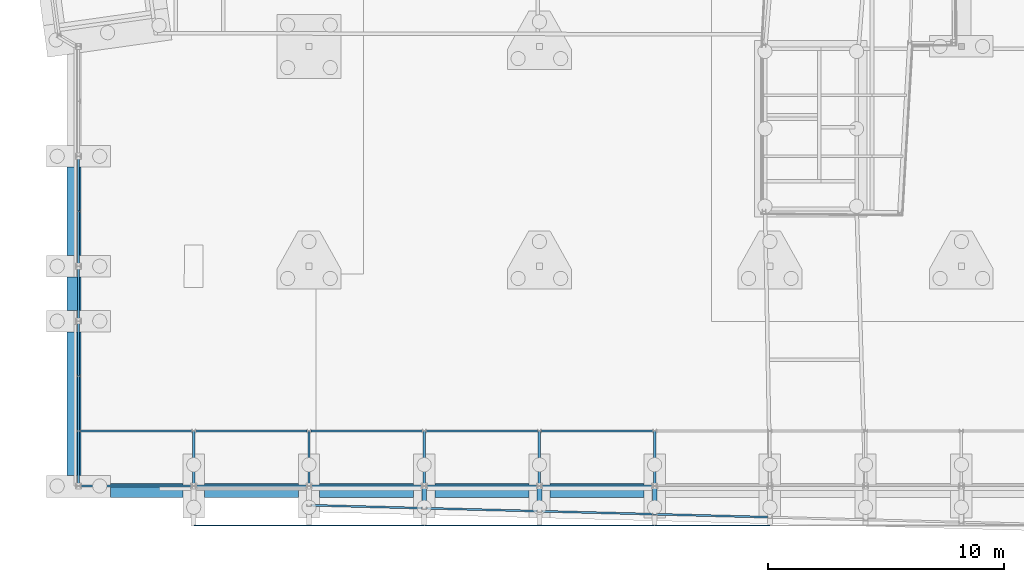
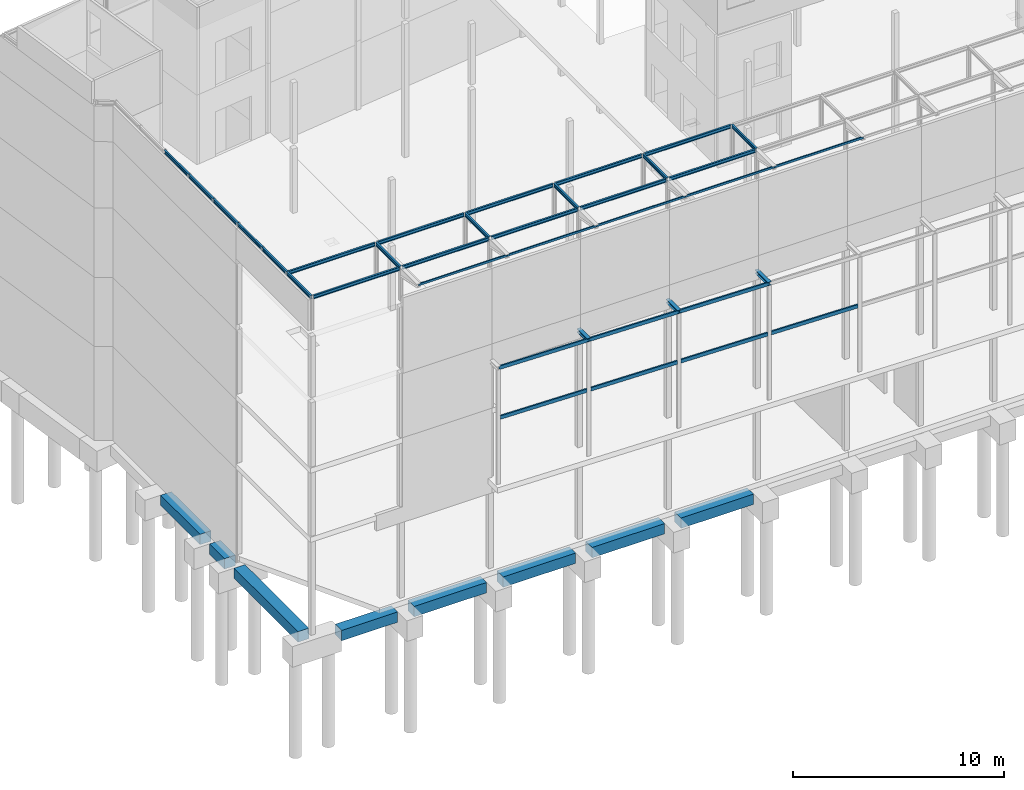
# One storey, part 60 of 82: 44 beams.
"""IFC2X3 building model written with IfcOpenShell, lengths in millimetres."""

from ifc_helpers import new_model, si_unit, frame, frame_2d, origin_with_axes, place, context, subcontext, project, spatial, rectangle, i_section, u_section, extrude, boolean, clip, halfspace, material, type_object, element, save


model = new_model("IFC2X3")

# Units and contexts
model_context = context("Model", 3, precision=1e-05, world=origin_with_axes())
body_context = subcontext(model_context, "Body", "Model", "MODEL_VIEW")
ifc_project = project(units=[si_unit("LENGTHUNIT", "METRE", prefix="MILLI"), si_unit("AREAUNIT", "SQUARE_METRE"), si_unit("VOLUMEUNIT", "CUBIC_METRE"), si_unit("MASSUNIT", "GRAM", prefix="KILO"), si_unit("TIMEUNIT", "SECOND"), si_unit("PLANEANGLEUNIT", "RADIAN"), si_unit("SOLIDANGLEUNIT", "STERADIAN"), si_unit("THERMODYNAMICTEMPERATUREUNIT", "DEGREE_CELSIUS"), si_unit("LUMINOUSINTENSITYUNIT", "LUMEN")], contexts=[model_context])

# Site, building, storey
site_placement = place(None, origin_with_axes())
site = spatial("IfcSite", under=ifc_project, at=site_placement, Name="Undefined", CompositionType="ELEMENT")
building_placement = place(site_placement, origin_with_axes())
building = spatial("IfcBuilding", under=site, at=building_placement, Name="Undefined", CompositionType="ELEMENT")
storey_placement = place(building_placement, origin_with_axes())
storey = spatial("IfcBuildingStorey", under=building, at=storey_placement, Name="Undefined", CompositionType="ELEMENT", Elevation=0.0)

# Beams
ifc_material_1 = material(Name="STEEL/S275JR")
beam_type_1 = type_object("IfcBeamType", Name="IPE200", PredefinedType="NOTDEFINED")
beam_1_placement = place(storey_placement, frame((3.12153133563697e-07, 11625.0001374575, 19025.0), z_axis=(0.0, 0.0, 1.0), x_axis=(-2.77555756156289e-17, -1.0, 0.0)))
element("IfcBeam", 1, at=beam_1_placement, inside=storey, type_object=beam_type_1, material=ifc_material_1, Name="POUTRE", ObjectType="IPE200", context=body_context, shape_type="SweptSolid", body=[
    extrude(i_section(OverallWidth=100.0, OverallDepth=200.0, WebThickness=5.599999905, FlangeThickness=8.5, FilletRadius=12.0, at=frame_2d((5.17284206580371e-08, 4.49290382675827e-10), x_axis=(1.0, 0.0))), frame((2321.00013732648, 0.0, 0.0), z_axis=(-1.0, 0.0, 0.0), x_axis=(-2.77555756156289e-17, -1.0, 0.0)), (0.0, 0.0, 1.0), 2317.0),
])
for number, where, z_axis, x_axis, name in (
    (2, (-5.80257619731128e-09, 4650.00042968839, 19025.0200000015), (0.0, -4.30099999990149e-06, 0.999999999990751), (0.0, -0.999999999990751, -4.30100000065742e-06), "POUTRE"),
    (3, (-1.95359461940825e-09, 2325.00042990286, 19025.0100000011), (0.0, -4.30099999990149e-06, 0.999999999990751), (0.0, -0.999999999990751, -4.30100000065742e-06), "POUTRE"),
):
    element("IfcBeam", number, at=place(storey_placement, frame(where, z_axis=z_axis, x_axis=x_axis)), inside=storey, type_object=beam_type_1, material=ifc_material_1, Name=name, ObjectType="IPE200", context=body_context, shape_type="SweptSolid", body=[
        extrude(i_section(OverallWidth=100.0, OverallDepth=200.0, WebThickness=5.599999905, FlangeThickness=8.5, FilletRadius=12.0, at=frame_2d((5.17284206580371e-08, 4.49290382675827e-10), x_axis=(1.0, 0.0))), frame((2321.0004298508, 0.0, 0.0), z_axis=(-1.0, 0.0, 0.0), x_axis=(-2.77555756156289e-17, -1.0, 0.0)), (0.0, 0.0, 1.0), 2317.0),
    ])
for number, where, z_axis, x_axis, name in (
    (4, (24374.9999979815, -0.00129034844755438, 19025.0300000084), (0.0, 1.29029999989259e-05, 0.999999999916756), (1.00000135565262e-09, 0.999999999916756, -1.29029999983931e-05), "POUTRE"),
    (5, (19499.9999979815, -0.0012903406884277, 19025.0300000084), (0.0, 1.29029999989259e-05, 0.999999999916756), (1.00000135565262e-09, 0.999999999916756, -1.29029999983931e-05), "POUTRE"),
    (6, (14624.9999979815, -0.00129033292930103, 19025.0300000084), (0.0, 1.29029999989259e-05, 0.999999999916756), (1.00000135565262e-09, 0.999999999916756, -1.29029999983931e-05), "POUTRE"),
    (7, (9749.9999979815, -0.00129032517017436, 19025.0300000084), (0.0, 1.29029999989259e-05, 0.999999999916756), (1.00000135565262e-09, 0.999999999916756, -1.29029999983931e-05), "POUTRE"),
    (8, (4874.9999979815, -0.00129031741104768, 19025.0300000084), (0.0, 1.29029999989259e-05, 0.999999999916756), (1.00000135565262e-09, 0.999999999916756, -1.29029999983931e-05), "POUTRE"),
):
    element("IfcBeam", number, at=place(storey_placement, frame(where, z_axis=z_axis, x_axis=x_axis)), inside=storey, type_object=beam_type_1, material=ifc_material_1, Name=name, ObjectType="IPE200", context=body_context, shape_type="SweptSolid", body=[
        extrude(i_section(OverallWidth=100.0, OverallDepth=200.0, WebThickness=5.599999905, FlangeThickness=8.5, FilletRadius=12.0, at=frame_2d((5.17284206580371e-08, 4.49290382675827e-10), x_axis=(1.0, 0.0))), frame((2321.00129012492, -9.56248207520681e-23, 3.93192912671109e-18), z_axis=(-1.0, 0.0, 0.0), x_axis=(-2.77555756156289e-17, -1.0, 0.0)), (0.0, 0.0, 1.0), 2317.0),
    ])
for number, where, z_axis, x_axis, name in (
    (9, (19500.0000004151, 2324.99999967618, 19025.0000000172), (0.0, 0.0, 1.0), (1.0, 0.0, 0.0), "POUTRE"),
    (10, (14625.0000004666, 2324.99999968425, 19025.0000000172), (0.0, 0.0, 1.0), (1.0, 0.0, 0.0), "POUTRE"),
    (11, (9750.0000011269, 2324.99999969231, 19025.0000000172), (0.0, 0.0, 1.0), (1.0, 0.0, 0.0), "POUTRE"),
    (12, (4875.00000112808, 2324.99999970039, 19025.0000000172), (0.0, 0.0, 1.0), (1.0, 0.0, 0.0), "POUTRE"),
    (13, (6.21348590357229e-07, 2324.99999984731, 19025.0), (0.0, 0.0, 1.0), (1.0, 0.0, 0.0), "POUTRE"),
):
    element("IfcBeam", number, at=place(storey_placement, frame(where, z_axis=z_axis, x_axis=x_axis)), inside=storey, type_object=beam_type_1, material=ifc_material_1, Name=name, ObjectType="IPE200", context=body_context, shape_type="SweptSolid", body=[
        extrude(i_section(OverallWidth=100.0, OverallDepth=200.0, WebThickness=5.599999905, FlangeThickness=8.5, FilletRadius=12.0, at=frame_2d((5.17284206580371e-08, 4.49290382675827e-10), x_axis=(1.0, 0.0))), frame((4795.00000103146, 0.0, 0.0), z_axis=(-1.0, 0.0, 0.0), x_axis=(-2.77555756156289e-17, -1.0, 0.0)), (0.0, 0.0, 1.0), 4715.0),
    ])
beam_2_placement = place(storey_placement, frame((19500.0006153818, 6.7387020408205e-09, 19025.0000000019), z_axis=(-6.11252893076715e-06, 2.76481135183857e-10, 0.999999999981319), x_axis=(0.99999999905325, 4.30770000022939e-05, 6.15400000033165e-06)))
element("IfcBeam", 14, at=beam_2_placement, inside=storey, type_object=beam_type_1, material=ifc_material_1, Name="POUTRE", ObjectType="IPE200", context=body_context, shape_type="SweptSolid", body=[
    extrude(i_section(OverallWidth=100.0, OverallDepth=200.0, WebThickness=5.599999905, FlangeThickness=8.5, FilletRadius=12.0, at=frame_2d((5.17284206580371e-08, 4.49290382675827e-10), x_axis=(1.0, 0.0))), frame((4794.9993847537, 0.0, 0.0), z_axis=(-1.0, 0.0, 0.0), x_axis=(-2.77555756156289e-17, -1.0, 0.0)), (0.0, 0.0, 1.0), 4715.0),
])
beam_3_placement = place(storey_placement, frame((14624.9993846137, -1.17028946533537e-08, 19025.0300000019), z_axis=(6.15400000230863e-06, 0.0, 0.999999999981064), x_axis=(0.999999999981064, 0.0, -6.1540000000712e-06)))
element("IfcBeam", 15, at=beam_3_placement, inside=storey, type_object=beam_type_1, material=ifc_material_1, Name="POUTRE", ObjectType="IPE200", context=body_context, shape_type="SweptSolid", body=[
    extrude(i_section(OverallWidth=100.0, OverallDepth=200.0, WebThickness=5.599999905, FlangeThickness=8.5, FilletRadius=12.0, at=frame_2d((5.17284206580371e-08, 4.49290382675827e-10), x_axis=(1.0, 0.0))), frame((4795.00061555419, 0.0, 4.06152350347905e-18), z_axis=(-1.0, 0.0, 0.0), x_axis=(-2.77555756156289e-17, -1.0, 0.0)), (0.0, 0.0, 1.0), 4715.0),
])
beam_4_placement = place(storey_placement, frame((9750.00061538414, -3.63817775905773e-09, 19025.0000000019), z_axis=(-6.11252893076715e-06, 2.76481135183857e-10, 0.999999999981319), x_axis=(0.999999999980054, 0.0, 6.31599999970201e-06)))
element("IfcBeam", 16, at=beam_4_placement, inside=storey, type_object=beam_type_1, material=ifc_material_1, Name="POUTRE", ObjectType="IPE200", context=body_context, shape_type="SweptSolid", body=[
    extrude(i_section(OverallWidth=100.0, OverallDepth=200.0, WebThickness=5.599999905, FlangeThickness=8.5, FilletRadius=12.0, at=frame_2d((5.17284206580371e-08, 4.49290382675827e-10), x_axis=(1.0, 0.0))), frame((4794.9993847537, 0.0, 0.0), z_axis=(-1.0, 0.0, 0.0), x_axis=(-2.77555756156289e-17, -1.0, 0.0)), (0.0, 0.0, 1.0), 4715.0),
])
beam_5_placement = place(storey_placement, frame((4874.99938461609, 4.43017711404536e-09, 19025.0300000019), z_axis=(6.15400000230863e-06, 0.0, 0.999999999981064), x_axis=(0.999999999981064, 0.0, -6.1540000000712e-06)))
element("IfcBeam", 17, at=beam_5_placement, inside=storey, type_object=beam_type_1, material=ifc_material_1, Name="POUTRE", ObjectType="IPE200", context=body_context, shape_type="SweptSolid", body=[
    extrude(i_section(OverallWidth=100.0, OverallDepth=200.0, WebThickness=5.599999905, FlangeThickness=8.5, FilletRadius=12.0, at=frame_2d((5.17284206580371e-08, 4.49290382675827e-10), x_axis=(1.0, 0.0))), frame((4795.00061555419, 0.0, 4.06152350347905e-18), z_axis=(-1.0, 0.0, 0.0), x_axis=(-2.77555756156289e-17, -1.0, 0.0)), (0.0, 0.0, 1.0), 4715.0),
])
beam_6_placement = place(storey_placement, frame((0.000615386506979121, 1.25021699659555e-08, 19025.0000000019), z_axis=(-6.11252893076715e-06, 2.76481135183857e-10, 0.999999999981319), x_axis=(0.999999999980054, 0.0, 6.31599999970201e-06)))
element("IfcBeam", 18, at=beam_6_placement, inside=storey, type_object=beam_type_1, material=ifc_material_1, Name="POUTRE", ObjectType="IPE200", context=body_context, shape_type="SweptSolid", body=[
    extrude(i_section(OverallWidth=100.0, OverallDepth=200.0, WebThickness=5.599999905, FlangeThickness=8.5, FilletRadius=12.0, at=frame_2d((5.17284206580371e-08, 4.49290382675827e-10), x_axis=(1.0, 0.0))), frame((4794.9993847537, 0.0, 0.0), z_axis=(-1.0, 0.0, 0.0), x_axis=(-2.77555756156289e-17, -1.0, 0.0)), (0.0, 0.0, 1.0), 4715.0),
])
beam_7_placement = place(storey_placement, frame((-9.64791979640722e-09, 6975.00043012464, 19025.0300000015), z_axis=(0.0, -4.30099999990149e-06, 0.999999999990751), x_axis=(0.0, -0.999999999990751, -4.30100000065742e-06)))
element("IfcBeam", 19, at=beam_7_placement, inside=storey, type_object=beam_type_1, material=ifc_material_1, Name="POUTRE", ObjectType="IPE200", context=body_context, shape_type="SweptSolid", body=[
    extrude(i_section(OverallWidth=100.0, OverallDepth=200.0, WebThickness=5.599999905, FlangeThickness=8.5, FilletRadius=12.0, at=frame_2d((5.17284206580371e-08, 4.49290382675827e-10), x_axis=(1.0, 0.0))), frame((2321.0004298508, 0.0, 0.0), z_axis=(-1.0, 0.0, 0.0), x_axis=(-2.77555756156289e-17, -1.0, 0.0)), (0.0, 0.0, 1.0), 2317.0),
])
beam_8_placement = place(storey_placement, frame((-1.35005393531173e-08, 9299.99870969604, 19025.0000000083), z_axis=(0.0, 1.29029999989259e-05, 0.999999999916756), x_axis=(0.0, -0.999999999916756, 1.2902999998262e-05)))
element("IfcBeam", 20, at=beam_8_placement, inside=storey, type_object=beam_type_1, material=ifc_material_1, Name="POUTRE", ObjectType="IPE200", context=body_context, shape_type="SweptSolid", body=[
    extrude(i_section(OverallWidth=100.0, OverallDepth=200.0, WebThickness=5.599999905, FlangeThickness=8.5, FilletRadius=12.0, at=frame_2d((5.17284206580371e-08, 4.49290382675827e-10), x_axis=(1.0, 0.0))), frame((2320.99870975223, 0.0, -3.93192475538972e-18), z_axis=(-1.0, 0.0, 0.0), x_axis=(-2.77555756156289e-17, -1.0, 0.0)), (0.0, 0.0, 1.0), 2317.0),
])
beam_9_placement = place(storey_placement, frame((6.37799530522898e-07, 13949.9999998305, 19025.0), z_axis=(0.0, 0.0, 1.0), x_axis=(-2.77555756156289e-17, -1.0, 0.0)))
element("IfcBeam", 21, at=beam_9_placement, inside=storey, type_object=beam_type_1, material=ifc_material_1, Name="POUTRE", ObjectType="IPE200", context=body_context, shape_type="SweptSolid", body=[
    extrude(i_section(OverallWidth=100.0, OverallDepth=200.0, WebThickness=5.599999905, FlangeThickness=8.5, FilletRadius=12.0, at=frame_2d((5.17284206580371e-08, 4.49290382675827e-10), x_axis=(1.0, 0.0))), frame((2320.99986233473, 0.0, 0.0), z_axis=(-1.0, 0.0, 0.0), x_axis=(-2.77555756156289e-17, -1.0, 0.0)), (0.0, 0.0, 1.0), 2317.0),
])
beam_type_2 = type_object("IfcBeamType", Name="UPE120", PredefinedType="NOTDEFINED")
beam_10_placement = place(storey_placement, frame((24382.4622321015, -1669.79005434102, 19065.0), z_axis=(0.0, -6.50000002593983e-08, -0.999999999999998), x_axis=(0.999999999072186, -4.30770000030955e-05, 0.0)))
element("IfcBeam", 22, at=beam_10_placement, inside=storey, type_object=beam_type_2, material=ifc_material_1, Name="POUTRE", ObjectType="UPE120", context=body_context, shape_type="CSG", body=[
    boolean("DIFFERENCE", boolean("DIFFERENCE", extrude(u_section(Depth=120.0, FlangeWidth=60.0, WebThickness=5.0, FlangeThickness=8.0, FilletRadius=12.0, at=frame_2d((5.17284206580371e-08, 4.49290382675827e-10), x_axis=(1.0, 0.0))), frame((4862.53728702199, 0.0, 0.0), z_axis=(-1.0, 0.0, 0.0), x_axis=(-2.77555756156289e-17, -1.0, 0.0)), (0.0, 0.0, 1.0), 4865.0), extrude(rectangle(XDim=22.0, YDim=112.0, at=frame_2d((5.17284206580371e-08, 4.49290382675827e-10), x_axis=(1.0, 0.0))), frame((4808.53594265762, -31.2072434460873, -50.0148687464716), z_axis=(4.30770000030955e-05, 0.999999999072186, 0.0), x_axis=(0.0, 0.0, 1.0)), (0.0, 0.0, 1.0), 62.2)), extrude(rectangle(XDim=22.0, YDim=112.0, at=frame_2d((5.17284206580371e-08, 4.49290382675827e-10), x_axis=(1.0, 0.0))), frame((51.5386268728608, 31.2072434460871, -50.0148687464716), z_axis=(-4.30770000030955e-05, -0.999999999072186, 0.0), x_axis=(0.0, 0.0, 1.0)), (0.0, 0.0, 1.0), 62.2)),
])
for number, where, z_axis, x_axis, name in (
    (23, (19499.9982210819, -1670.00000019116, 19065.0), (0.0, -6.50000002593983e-08, -0.999999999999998), (0.9999999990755, 4.30000000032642e-05, 0.0), "POUTRE"),
    (24, (14624.9982251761, -1670.00000019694, 19065.0), (0.0, -6.50000002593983e-08, -0.999999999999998), (0.9999999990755, 4.30000000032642e-05, 0.0), "POUTRE"),
):
    element("IfcBeam", number, at=place(storey_placement, frame(where, z_axis=z_axis, x_axis=x_axis)), inside=storey, type_object=beam_type_2, material=ifc_material_1, Name=name, ObjectType="UPE120", context=body_context, shape_type="CSG", body=[
        boolean("DIFFERENCE", boolean("DIFFERENCE", extrude(u_section(Depth=120.0, FlangeWidth=60.0, WebThickness=5.0, FlangeThickness=8.0, FilletRadius=12.0, at=frame_2d((5.17284206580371e-08, 4.49290382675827e-10), x_axis=(1.0, 0.0))), frame((4870.00129803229, 0.0, -3.63797880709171e-12), z_axis=(-1.0, 0.0, 0.0), x_axis=(-2.77555756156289e-17, -1.0, 0.0)), (0.0, 0.0, 1.0), 4865.0), extrude(rectangle(XDim=22.0, YDim=112.0, at=frame_2d((5.17284206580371e-08, 4.49290382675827e-10), x_axis=(1.0, 0.0))), frame((4816.00263108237, -31.0023219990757, -50.0148687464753), z_axis=(-4.30000000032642e-05, 0.9999999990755, 0.0), x_axis=(0.0, 0.0, 1.0)), (0.0, 0.0, 1.0), 62.2)), extrude(rectangle(XDim=22.0, YDim=112.0, at=frame_2d((5.17284206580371e-08, 4.49290382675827e-10), x_axis=(1.0, 0.0))), frame((58.99996048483, 31.0023219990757, -50.0148687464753), z_axis=(4.30000000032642e-05, -0.9999999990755, 0.0), x_axis=(0.0, 0.0, 1.0)), (0.0, 0.0, 1.0), 62.2)),
    ])
beam_11_placement = place(storey_placement, frame((9750.00000061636, -1670.000000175, 19065.0), z_axis=(0.0, -6.50000002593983e-08, -0.999999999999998), x_axis=(1.0, 0.0, 0.0)))
element("IfcBeam", 25, at=beam_11_placement, inside=storey, type_object=beam_type_2, material=ifc_material_1, Name="POUTRE", ObjectType="UPE120", context=body_context, shape_type="CSG", body=[
    boolean("DIFFERENCE", boolean("DIFFERENCE", extrude(u_section(Depth=120.0, FlangeWidth=60.0, WebThickness=5.0, FlangeThickness=8.0, FilletRadius=12.0, at=frame_2d((5.17284206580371e-08, 4.49290382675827e-10), x_axis=(1.0, 0.0))), frame((4869.99951399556, 0.0, 0.0), z_axis=(-1.0, 0.0, 0.0), x_axis=(-2.77555756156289e-17, -1.0, 0.0)), (0.0, 0.0, 1.0), 4865.0), extrude(rectangle(XDim=22.0, YDim=112.0, at=frame_2d((5.17284206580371e-08, 4.49290382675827e-10), x_axis=(1.0, 0.0))), frame((4815.99951399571, -31.0, -50.0148687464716), z_axis=(0.0, 1.0, 0.0), x_axis=(0.0, 0.0, 1.0)), (0.0, 0.0, 1.0), 62.0)), extrude(rectangle(XDim=22.0, YDim=112.0, at=frame_2d((5.17284206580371e-08, 4.49290382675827e-10), x_axis=(1.0, 0.0))), frame((58.9995139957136, 31.0, -50.0148687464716), z_axis=(-2.77555756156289e-17, -1.0, 0.0), x_axis=(0.0, 0.0, 1.0)), (0.0, 0.0, 1.0), 62.0)),
])
beam_12_placement = place(storey_placement, frame((4874.99951528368, -1670.00000018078, 19065.0), z_axis=(0.0, -6.50000002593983e-08, -0.999999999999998), x_axis=(1.0, 0.0, 0.0)))
element("IfcBeam", 26, at=beam_12_placement, inside=storey, type_object=beam_type_2, material=ifc_material_1, Name="POUTRE", ObjectType="UPE120", context=body_context, shape_type="CSG", body=[
    boolean("DIFFERENCE", boolean("DIFFERENCE", extrude(u_section(Depth=120.0, FlangeWidth=60.0, WebThickness=5.0, FlangeThickness=8.0, FilletRadius=12.0, at=frame_2d((5.17284206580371e-08, 4.49290382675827e-10), x_axis=(1.0, 0.0))), frame((4869.99999932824, 0.0, 0.0), z_axis=(-1.0, 0.0, 0.0), x_axis=(-2.77555756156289e-17, -1.0, 0.0)), (0.0, 0.0, 1.0), 4865.0), extrude(rectangle(XDim=22.0, YDim=112.0, at=frame_2d((5.17284206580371e-08, 4.49290382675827e-10), x_axis=(1.0, 0.0))), frame((4815.99999932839, -31.0, -50.014868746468), z_axis=(0.0, 1.0, 0.0), x_axis=(0.0, 0.0, 1.0)), (0.0, 0.0, 1.0), 62.0)), extrude(rectangle(XDim=22.0, YDim=112.0, at=frame_2d((5.17284206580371e-08, 4.49290382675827e-10), x_axis=(1.0, 0.0))), frame((58.9999993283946, 31.0, -50.014868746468), z_axis=(-2.77555756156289e-17, -1.0, 0.0), x_axis=(0.0, 0.0, 1.0)), (0.0, 0.0, 1.0), 62.0)),
])
beam_type_3 = type_object("IfcBeamType", Name="UPE200", PredefinedType="NOTDEFINED")
for number, where, z_axis, x_axis, name in (
    (27, (24376.0354454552, -1193.60846753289, 9125.0), (0.0, -6.50000002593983e-08, -0.999999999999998), (0.999664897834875, -0.0258861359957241, 0.0), "POUTRE"),
    (28, (19501.0354454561, -1065.8732209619, 9125.0), (0.0, -6.50000002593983e-08, -0.999999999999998), (0.999664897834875, -0.0258861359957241, 0.0), "POUTRE"),
    (29, (14626.0354441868, -938.481977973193, 9125.0), (0.0, -6.50000002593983e-08, -0.999999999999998), (0.999664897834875, -0.0258861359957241, 0.0), "POUTRE"),
    (30, (9751.03544545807, -812.244760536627, 9125.0), (0.0, -6.50000002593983e-08, -0.999999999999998), (0.999664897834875, -0.0258861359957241, 0.0), "POUTRE"),
):
    element("IfcBeam", number, at=place(storey_placement, frame(where, z_axis=z_axis, x_axis=x_axis)), inside=storey, type_object=beam_type_3, material=ifc_material_1, Name=name, ObjectType="UPE200", context=body_context, shape_type="Clipping", body=[
        clip(clip(extrude(u_section(Depth=200.0, FlangeWidth=80.0, WebThickness=6.0, FlangeThickness=11.0, FilletRadius=13.0, at=frame_2d((5.17284206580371e-08, 4.49290382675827e-10), x_axis=(1.0, 0.0))), frame((4777.65715632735, -1.65758280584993e-14, 0.0), z_axis=(-1.0, 0.0, 0.0), x_axis=(-2.77555756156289e-17, -1.0, 0.0)), (0.0, 0.0, 1.0), 4680.8), halfspace(frame((4775.56485539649, 1.73465650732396e-08, 1000.0), z_axis=(-0.999664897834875, 0.0258861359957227, 0.0), x_axis=(-0.0258861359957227, -0.999664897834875, 0.0)), True)), halfspace(frame((98.9977277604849, 4.60463525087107e-08, 1000.0), z_axis=(0.999664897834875, -0.0258861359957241, 0.0), x_axis=(0.02588613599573, 0.999664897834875, 0.0)), True)),
    ])
beam_13_placement = place(storey_placement, frame((19501.0354454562, -1065.87322096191, 12025.0), z_axis=(0.0, -6.50000002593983e-08, -0.999999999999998), x_axis=(0.999664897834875, -0.0258861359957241, 0.0)))
element("IfcBeam", 31, at=beam_13_placement, inside=storey, type_object=beam_type_3, material=ifc_material_1, Name="POUTRE", ObjectType="UPE200", context=body_context, shape_type="CSG", body=[
    boolean("DIFFERENCE", boolean("DIFFERENCE", boolean("DIFFERENCE", boolean("DIFFERENCE", boolean("DIFFERENCE", boolean("DIFFERENCE", extrude(u_section(Depth=200.0, FlangeWidth=80.0, WebThickness=6.0, FlangeThickness=11.0, FilletRadius=13.0, at=frame_2d((5.17284206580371e-08, 4.49290382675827e-10), x_axis=(1.0, 0.0))), frame((4873.11774498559, 1.13686837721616e-13, 0.0), z_axis=(-1.0, 0.0, 0.0), x_axis=(-2.77555756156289e-17, -1.0, 0.0)), (0.0, 0.0, 1.0), 4871.7), extrude(rectangle(XDim=34.0, YDim=107.5, at=frame_2d((5.17284206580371e-08, 4.49290382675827e-10), x_axis=(1.0, 0.0))), frame((4815.11149004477, -162.89100776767, 84.0), z_axis=(0.02588613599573, 0.999664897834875, 0.0), x_axis=(0.0, 0.0, 1.0)), (0.0, 0.0, 1.0), 205.3)), extrude(rectangle(XDim=34.0, YDim=107.5, at=frame_2d((5.17284206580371e-08, 4.49290382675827e-10), x_axis=(1.0, 0.0))), frame((4815.11149004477, -162.89100776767, -84.0), z_axis=(0.02588613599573, 0.999664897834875, 0.0), x_axis=(0.0, 0.0, 1.0)), (0.0, 0.0, 1.0), 205.3)), extrude(rectangle(XDim=34.0, YDim=107.5, at=frame_2d((5.17284206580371e-08, 4.49290382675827e-10), x_axis=(1.0, 0.0))), frame((59.5218139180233, 165.621995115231, 84.0), z_axis=(-0.0258861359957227, -0.999664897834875, 0.0), x_axis=(0.0, 0.0, 1.0)), (0.0, 0.0, 1.0), 208.0)), extrude(rectangle(XDim=34.0, YDim=107.5, at=frame_2d((5.17284206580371e-08, 4.49290382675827e-10), x_axis=(1.0, 0.0))), frame((59.5218139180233, 165.621995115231, -84.0), z_axis=(-0.0258861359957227, -0.999664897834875, 0.0), x_axis=(0.0, 0.0, 1.0)), (0.0, 0.0, 1.0), 208.0)), halfspace(frame((4871.09686964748, 5.36316520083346e-08, 1000.0), z_axis=(-0.999664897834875, 0.0258861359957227, 0.0), x_axis=(-0.0258861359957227, -0.999664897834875, 0.0)), True)), halfspace(frame((3.4657159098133, 4.58945805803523e-08, 1000.0), z_axis=(0.999664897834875, -0.0258861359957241, 0.0), x_axis=(0.02588613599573, 0.999664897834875, 0.0)), True)),
])
beam_14_placement = place(storey_placement, frame((14626.0354441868, -938.481977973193, 12025.0), z_axis=(0.0, -6.50000002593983e-08, -0.999999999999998), x_axis=(0.999664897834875, -0.0258861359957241, 0.0)))
element("IfcBeam", 32, at=beam_14_placement, inside=storey, type_object=beam_type_3, material=ifc_material_1, Name="POUTRE", ObjectType="UPE200", context=body_context, shape_type="CSG", body=[
    boolean("DIFFERENCE", boolean("DIFFERENCE", boolean("DIFFERENCE", boolean("DIFFERENCE", boolean("DIFFERENCE", boolean("DIFFERENCE", extrude(u_section(Depth=200.0, FlangeWidth=80.0, WebThickness=6.0, FlangeThickness=11.0, FilletRadius=13.0, at=frame_2d((5.17284206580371e-08, 4.49290382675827e-10), x_axis=(1.0, 0.0))), frame((4873.11774498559, 1.13686837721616e-13, 0.0), z_axis=(-1.0, 0.0, 0.0), x_axis=(-2.77555756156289e-17, -1.0, 0.0)), (0.0, 0.0, 1.0), 4871.7), extrude(rectangle(XDim=34.0, YDim=107.5, at=frame_2d((5.17284206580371e-08, 4.49290382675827e-10), x_axis=(1.0, 0.0))), frame((4815.11149004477, -162.89100776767, 84.0), z_axis=(0.02588613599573, 0.999664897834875, 0.0), x_axis=(0.0, 0.0, 1.0)), (0.0, 0.0, 1.0), 205.3)), extrude(rectangle(XDim=34.0, YDim=107.5, at=frame_2d((5.17284206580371e-08, 4.49290382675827e-10), x_axis=(1.0, 0.0))), frame((4815.11149004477, -162.89100776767, -84.0), z_axis=(0.02588613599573, 0.999664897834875, 0.0), x_axis=(0.0, 0.0, 1.0)), (0.0, 0.0, 1.0), 205.3)), extrude(rectangle(XDim=34.0, YDim=107.5, at=frame_2d((5.17284206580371e-08, 4.49290382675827e-10), x_axis=(1.0, 0.0))), frame((59.5218139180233, 165.621995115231, 84.0), z_axis=(-0.0258861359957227, -0.999664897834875, 0.0), x_axis=(0.0, 0.0, 1.0)), (0.0, 0.0, 1.0), 208.0)), extrude(rectangle(XDim=34.0, YDim=107.5, at=frame_2d((5.17284206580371e-08, 4.49290382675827e-10), x_axis=(1.0, 0.0))), frame((59.5218139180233, 165.621995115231, -84.0), z_axis=(-0.0258861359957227, -0.999664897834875, 0.0), x_axis=(0.0, 0.0, 1.0)), (0.0, 0.0, 1.0), 208.0)), halfspace(frame((4871.09686964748, 5.36316520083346e-08, 1000.0), z_axis=(-0.999664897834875, 0.0258861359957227, 0.0), x_axis=(-0.0258861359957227, -0.999664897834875, 0.0)), True)), halfspace(frame((3.4657159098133, 4.58945805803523e-08, 1000.0), z_axis=(0.999664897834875, -0.0258861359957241, 0.0), x_axis=(0.02588613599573, 0.999664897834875, 0.0)), True)),
])
beam_15_placement = place(storey_placement, frame((9751.03544545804, -812.244760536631, 12025.0), z_axis=(0.0, -6.50000002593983e-08, -0.999999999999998), x_axis=(0.999664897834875, -0.0258861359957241, 0.0)))
element("IfcBeam", 33, at=beam_15_placement, inside=storey, type_object=beam_type_3, material=ifc_material_1, Name="POUTRE", ObjectType="UPE200", context=body_context, shape_type="CSG", body=[
    boolean("DIFFERENCE", boolean("DIFFERENCE", boolean("DIFFERENCE", boolean("DIFFERENCE", boolean("DIFFERENCE", boolean("DIFFERENCE", extrude(u_section(Depth=200.0, FlangeWidth=80.0, WebThickness=6.0, FlangeThickness=11.0, FilletRadius=13.0, at=frame_2d((5.17284206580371e-08, 4.49290382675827e-10), x_axis=(1.0, 0.0))), frame((4873.11774498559, 1.13686837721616e-13, 0.0), z_axis=(-1.0, 0.0, 0.0), x_axis=(-2.77555756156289e-17, -1.0, 0.0)), (0.0, 0.0, 1.0), 4871.7), extrude(rectangle(XDim=34.0, YDim=107.5, at=frame_2d((5.17284206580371e-08, 4.49290382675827e-10), x_axis=(1.0, 0.0))), frame((4815.11149004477, -162.89100776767, 84.0), z_axis=(0.02588613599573, 0.999664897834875, 0.0), x_axis=(0.0, 0.0, 1.0)), (0.0, 0.0, 1.0), 205.3)), extrude(rectangle(XDim=34.0, YDim=107.5, at=frame_2d((5.17284206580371e-08, 4.49290382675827e-10), x_axis=(1.0, 0.0))), frame((4815.11149004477, -162.89100776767, -84.0), z_axis=(0.02588613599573, 0.999664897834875, 0.0), x_axis=(0.0, 0.0, 1.0)), (0.0, 0.0, 1.0), 205.3)), extrude(rectangle(XDim=34.0, YDim=107.5, at=frame_2d((5.17284206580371e-08, 4.49290382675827e-10), x_axis=(1.0, 0.0))), frame((59.5218139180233, 165.621995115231, 84.0), z_axis=(-0.0258861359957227, -0.999664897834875, 0.0), x_axis=(0.0, 0.0, 1.0)), (0.0, 0.0, 1.0), 208.0)), extrude(rectangle(XDim=34.0, YDim=107.5, at=frame_2d((5.17284206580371e-08, 4.49290382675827e-10), x_axis=(1.0, 0.0))), frame((59.5218139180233, 165.621995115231, -84.0), z_axis=(-0.0258861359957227, -0.999664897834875, 0.0), x_axis=(0.0, 0.0, 1.0)), (0.0, 0.0, 1.0), 208.0)), halfspace(frame((4871.09686964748, 5.36316520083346e-08, 1000.0), z_axis=(-0.999664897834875, 0.0258861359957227, 0.0), x_axis=(-0.0258861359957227, -0.999664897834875, 0.0)), True)), halfspace(frame((3.4657159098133, 4.58945805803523e-08, 1000.0), z_axis=(0.999664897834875, -0.0258861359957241, 0.0), x_axis=(0.02588613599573, 0.999664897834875, 0.0)), True)),
])
beam_type_4 = type_object("IfcBeamType", Name="HEB200", PredefinedType="NOTDEFINED")
beam_16_placement = place(storey_placement, frame((24374.999999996, 0.209999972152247, 12025.0), z_axis=(0.0, 0.0, 1.0), x_axis=(-2.77555756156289e-17, -1.0, 0.0)))
element("IfcBeam", 34, at=beam_16_placement, inside=storey, type_object=beam_type_4, material=ifc_material_1, Name="POUTRE", ObjectType="HEB200", context=body_context, shape_type="SweptSolid", body=[
    extrude(i_section(OverallWidth=200.0, OverallDepth=200.0, WebThickness=9.0, FlangeThickness=15.0, FilletRadius=18.0, at=frame_2d((5.17284206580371e-08, 4.49290382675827e-10), x_axis=(1.0, 0.0))), frame((1232.30703431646, 0.0, 0.0), z_axis=(-1.0, 0.0, 0.0), x_axis=(-2.77555756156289e-17, -1.0, 0.0)), (0.0, 0.0, 1.0), 1232.3),
])
beam_17_placement = place(storey_placement, frame((19499.9999999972, -1.9778525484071e-08, 12025.0), z_axis=(0.0, 0.0, 1.0), x_axis=(-2.77555756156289e-17, -1.0, 0.0)))
element("IfcBeam", 35, at=beam_17_placement, inside=storey, type_object=beam_type_4, material=ifc_material_1, Name="POUTRE", ObjectType="HEB200", context=body_context, shape_type="SweptSolid", body=[
    extrude(i_section(OverallWidth=200.0, OverallDepth=200.0, WebThickness=9.0, FlangeThickness=15.0, FilletRadius=18.0, at=frame_2d((5.17284206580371e-08, 4.49290382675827e-10), x_axis=(1.0, 0.0))), frame((1105.94543990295, 0.0, 0.0), z_axis=(-1.0, 0.0, 0.0), x_axis=(-2.77555756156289e-17, -1.0, 0.0)), (0.0, 0.0, 1.0), 1105.9),
])
beam_18_placement = place(storey_placement, frame((14624.9999999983, -1.17101706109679e-08, 12025.0), z_axis=(0.0, 0.0, 1.0), x_axis=(-2.77555756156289e-17, -1.0, 0.0)))
element("IfcBeam", 36, at=beam_18_placement, inside=storey, type_object=beam_type_4, material=ifc_material_1, Name="POUTRE", ObjectType="HEB200", context=body_context, shape_type="SweptSolid", body=[
    extrude(i_section(OverallWidth=200.0, OverallDepth=200.0, WebThickness=9.0, FlangeThickness=15.0, FilletRadius=18.0, at=frame_2d((5.17284206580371e-08, 4.49290382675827e-10), x_axis=(1.0, 0.0))), frame((978.468573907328, 0.0, 0.0), z_axis=(-1.0, 0.0, 0.0), x_axis=(-2.77555756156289e-17, -1.0, 0.0)), (0.0, 0.0, 1.0), 978.5),
])
ifc_material_2 = material(Name="CONCRETE/C30/37")
beam_type_5 = type_object("IfcBeamType", Name="600*600", PredefinedType="NOTDEFINED")
beam_19_placement = place(storey_placement, frame((-190.000000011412, 6974.99985983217, -749.989999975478), z_axis=(0.0, 1.29029999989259e-05, 0.999999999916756), x_axis=(1.00000135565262e-09, 0.999999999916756, -1.29029999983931e-05)))
element("IfcBeam", 37, at=beam_19_placement, inside=storey, type_object=beam_type_5, material=ifc_material_2, Name="LONGRINE", ObjectType="600*600", context=body_context, shape_type="SweptSolid", body=[
    extrude(rectangle(XDim=600.0, YDim=600.0, at=frame_2d((5.17284206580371e-08, 4.49290382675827e-10), x_axis=(1.0, 0.0))), frame((1875.00014036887, 2.8421709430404e-14, -1.13680484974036e-13), z_axis=(-1.0, 0.0, 0.0), x_axis=(-2.77555756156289e-17, -1.0, 0.0)), (0.0, 0.0, 1.0), 1425.0),
])
beam_20_placement = place(storey_placement, frame((-189.999999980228, 9300.00193549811, -750.029999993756), z_axis=(0.0, -6.45199999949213e-06, 0.999999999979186), x_axis=(0.0, 0.999999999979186, 6.45199999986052e-06)))
element("IfcBeam", 38, at=beam_20_placement, inside=storey, type_object=beam_type_5, material=ifc_material_2, Name="LONGRINE", ObjectType="600*600", context=body_context, shape_type="SweptSolid", body=[
    extrude(rectangle(XDim=600.0, YDim=600.0, at=frame_2d((5.17284206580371e-08, 4.49290382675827e-10), x_axis=(1.0, 0.0))), frame((4199.99806463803, 0.0, 0.0), z_axis=(-1.0, 0.0, 0.0), x_axis=(-2.77555756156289e-17, -1.0, 0.0)), (0.0, 0.0, 1.0), 3750.0),
])
beam_21_placement = place(storey_placement, frame((-189.99999996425, 0.00129032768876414, -750.029999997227), z_axis=(0.0, -4.30099999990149e-06, 0.999999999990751), x_axis=(0.0, 0.999999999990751, 4.30099999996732e-06)))
element("IfcBeam", 39, at=beam_21_placement, inside=storey, type_object=beam_type_5, material=ifc_material_2, Name="LONGRINE", ObjectType="600*600", context=body_context, shape_type="SweptSolid", body=[
    extrude(rectangle(XDim=600.0, YDim=600.0, at=frame_2d((5.17284206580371e-08, 4.49290382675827e-10), x_axis=(1.0, 0.0))), frame((6525.00244056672, 0.0, -5.52689204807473e-18), z_axis=(-1.0, 0.0, 0.0), x_axis=(-2.77555756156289e-17, -1.0, 0.0)), (0.0, 0.0, 1.0), 6075.0),
])
beam_22_placement = place(storey_placement, frame((19500.0100308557, -189.999999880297, -750.029999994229), z_axis=(-6.11252893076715e-06, 2.76481135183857e-10, 0.999999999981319), x_axis=(0.99999999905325, 4.30770000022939e-05, 6.15400000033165e-06)))
element("IfcBeam", 40, at=beam_22_placement, inside=storey, type_object=beam_type_5, material=ifc_material_2, Name="LONGRINE", ObjectType="600*600", context=body_context, shape_type="SweptSolid", body=[
    extrude(rectangle(XDim=600.0, YDim=600.0, at=frame_2d((5.17284206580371e-08, 4.49290382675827e-10), x_axis=(1.0, 0.0))), frame((4424.98997337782, -3.98699016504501e-18, 7.49622459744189e-18), z_axis=(-1.0, 0.0, 0.0), x_axis=(-2.77555756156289e-17, -1.0, 0.0)), (0.0, 0.0, 1.0), 3975.0),
])
for number, where, z_axis, x_axis in (
    (41, (14624.9981539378, -190.000000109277, -749.999999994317), (6.15400000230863e-06, 0.0, 0.999999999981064), (0.999999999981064, 0.0, -6.1540000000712e-06)),
    (42, (9749.99815390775, -190.00000004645, -749.999999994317), (6.15400000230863e-06, 0.0, 0.999999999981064), (0.999999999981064, 0.0, -6.1540000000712e-06)),
    (43, (4874.99815391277, -190.000000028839, -749.999999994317), (6.15400000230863e-06, 0.0, 0.999999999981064), (0.999999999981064, 0.0, -6.1540000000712e-06)),
):
    element("IfcBeam", number, at=place(storey_placement, frame(where, z_axis=z_axis, x_axis=x_axis)), inside=storey, type_object=beam_type_5, material=ifc_material_2, Name="LONGRINE", ObjectType="600*600", context=body_context, shape_type="SweptSolid", body=[
        extrude(rectangle(XDim=600.0, YDim=600.0, at=frame_2d((5.17284206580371e-08, 4.49290382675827e-10), x_axis=(1.0, 0.0))), frame((4425.00184623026, 0.0, 0.0), z_axis=(-1.0, 0.0, 0.0), x_axis=(-2.77555756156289e-17, -1.0, 0.0)), (0.0, 0.0, 1.0), 3975.0),
    ])
beam_23_placement = place(storey_placement, frame((0.00184618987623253, -189.999999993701, -750.02999999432), z_axis=(-6.11252893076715e-06, 2.76481135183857e-10, 0.999999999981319), x_axis=(0.999999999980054, 0.0, 6.31599999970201e-06)))
element("IfcBeam", 44, at=beam_23_placement, inside=storey, type_object=beam_type_5, material=ifc_material_2, Name="LONGRINE", ObjectType="600*600", context=body_context, shape_type="SweptSolid", body=[
    extrude(rectangle(XDim=600.0, YDim=600.0, at=frame_2d((5.17284206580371e-08, 4.49290382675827e-10), x_axis=(1.0, 0.0))), frame((4424.99815392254, -2.8421709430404e-14, -3.74811922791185e-18), z_axis=(-1.0, 0.0, 0.0), x_axis=(-2.77555756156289e-17, -1.0, 0.0)), (0.0, 0.0, 1.0), 3075.0),
])

save(model, "model.ifc")
